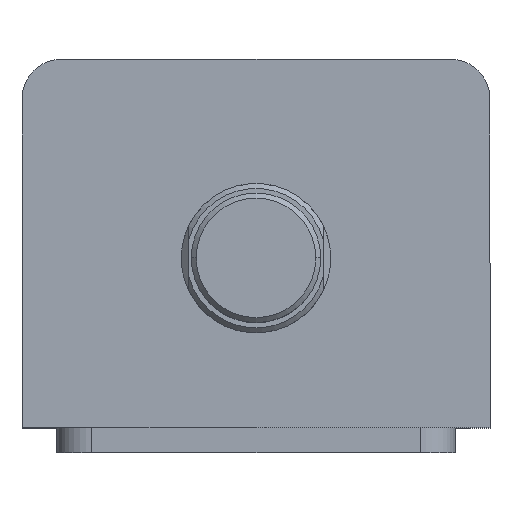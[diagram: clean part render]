
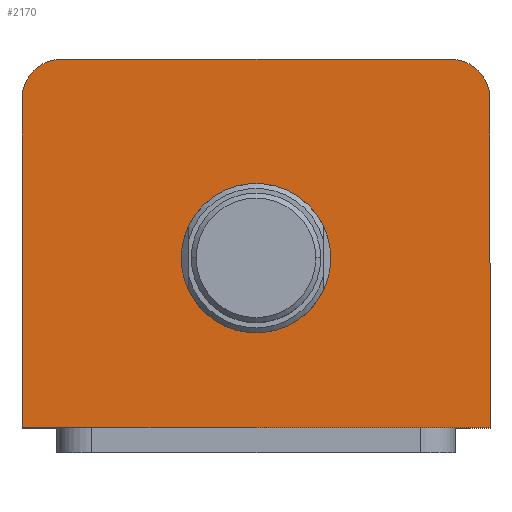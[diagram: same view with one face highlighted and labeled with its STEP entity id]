
A CAD part, top view. The second image highlights one B-rep face of the part: STEP entity #2170.
In plain terms, the highlighted planar face has unit normal (0, 0, 1).
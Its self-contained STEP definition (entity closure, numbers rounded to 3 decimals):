
#1 = CARTESIAN_POINT ( 'NONE',  ( 0., -3., 90. ) ) ;
#32 = LINE ( 'NONE', #687, #35 ) ;
#35 = VECTOR ( 'NONE', #688, 1000. ) ;
#140 = FACE_BOUND ( 'NONE', #2980, .T. ) ;
#143 = FACE_OUTER_BOUND ( 'NONE', #3020, .T. ) ;
#355 = EDGE_CURVE ( 'NONE', #2680, #2677, #1537, .T. ) ;
#368 = EDGE_CURVE ( 'NONE', #2704, #2680, #1515, .T. ) ;
#378 = EDGE_CURVE ( 'NONE', #2677, #2668, #1502, .T. ) ;
#384 = EDGE_CURVE ( 'NONE', #2666, #1987, #1494, .T. ) ;
#392 = EDGE_CURVE ( 'NONE', #2668, #2666, #1476, .T. ) ;
#401 = EDGE_CURVE ( 'NONE', #2589, #2601, #1454, .T. ) ;
#597 = CIRCLE ( 'NONE', #1702, 15. ) ;
#687 = CARTESIAN_POINT ( 'NONE',  ( 47., 37., 90. ) ) ;
#688 = DIRECTION ( 'NONE',  ( 0., 1., 0. ) ) ;
#709 = CARTESIAN_POINT ( 'NONE',  ( 47., -37., 90. ) ) ;
#863 = CARTESIAN_POINT ( 'NONE',  ( 0., 0., 90. ) ) ;
#864 = PLANE ( 'NONE',  #1763 ) ;
#869 = DIRECTION ( 'NONE',  ( 0., 0., 1. ) ) ;
#870 = DIRECTION ( 'NONE',  ( 1., 0., 0. ) ) ;
#916 = CARTESIAN_POINT ( 'NONE',  ( 15., -3., 90. ) ) ;
#928 = CARTESIAN_POINT ( 'NONE',  ( -15., -3., 90. ) ) ;
#985 = CARTESIAN_POINT ( 'NONE',  ( -47., -37., 90. ) ) ;
#987 = CARTESIAN_POINT ( 'NONE',  ( -47., 29., 90. ) ) ;
#988 = CARTESIAN_POINT ( 'NONE',  ( -39., 37., 90. ) ) ;
#998 = CARTESIAN_POINT ( 'NONE',  ( 39., 37., 90. ) ) ;
#1021 = CARTESIAN_POINT ( 'NONE',  ( 47., 29., 90. ) ) ;
#1454 = CIRCLE ( 'NONE', #1935, 15. ) ;
#1471 = VECTOR ( 'NONE', #2823, 1000. ) ;
#1476 = LINE ( 'NONE', #2825, #1471 ) ;
#1491 = VECTOR ( 'NONE', #2845, 1000. ) ;
#1494 = LINE ( 'NONE', #2847, #1491 ) ;
#1502 = CIRCLE ( 'NONE', #1930, 8. ) ;
#1515 = CIRCLE ( 'NONE', #1922, 8. ) ;
#1532 = VECTOR ( 'NONE', #2894, 1000. ) ;
#1537 = LINE ( 'NONE', #2896, #1532 ) ;
#1563 = ORIENTED_EDGE ( 'NONE', *, *, #401, .F. ) ;
#1702 = AXIS2_PLACEMENT_3D ( 'NONE', #1, #2884, #2720 ) ;
#1763 = AXIS2_PLACEMENT_3D ( 'NONE', #863, #869, #870 ) ;
#1883 = EDGE_CURVE ( 'NONE', #2601, #2589, #597, .T. ) ;
#1922 = AXIS2_PLACEMENT_3D ( 'NONE', #2814, #2813, #2812 ) ;
#1930 = AXIS2_PLACEMENT_3D ( 'NONE', #2736, #2729, #2725 ) ;
#1935 = AXIS2_PLACEMENT_3D ( 'NONE', #2797, #2795, #2794 ) ;
#1970 = EDGE_CURVE ( 'NONE', #1987, #2704, #32, .T. ) ;
#1987 = VERTEX_POINT ( 'NONE', #709 ) ;
#2170 = ADVANCED_FACE ( 'NONE', ( #140, #143 ), #864, .T. ) ;
#2326 = ORIENTED_EDGE ( 'NONE', *, *, #1883, .F. ) ;
#2327 = ORIENTED_EDGE ( 'NONE', *, *, #355, .T. ) ;
#2328 = ORIENTED_EDGE ( 'NONE', *, *, #378, .T. ) ;
#2329 = ORIENTED_EDGE ( 'NONE', *, *, #392, .T. ) ;
#2330 = ORIENTED_EDGE ( 'NONE', *, *, #384, .T. ) ;
#2331 = ORIENTED_EDGE ( 'NONE', *, *, #1970, .T. ) ;
#2332 = ORIENTED_EDGE ( 'NONE', *, *, #368, .T. ) ;
#2589 = VERTEX_POINT ( 'NONE', #916 ) ;
#2601 = VERTEX_POINT ( 'NONE', #928 ) ;
#2666 = VERTEX_POINT ( 'NONE', #985 ) ;
#2668 = VERTEX_POINT ( 'NONE', #987 ) ;
#2677 = VERTEX_POINT ( 'NONE', #988 ) ;
#2680 = VERTEX_POINT ( 'NONE', #998 ) ;
#2704 = VERTEX_POINT ( 'NONE', #1021 ) ;
#2720 = DIRECTION ( 'NONE',  ( 1., 0., 0. ) ) ;
#2725 = DIRECTION ( 'NONE',  ( 1., 0., 0. ) ) ;
#2729 = DIRECTION ( 'NONE',  ( 0., 0., 1. ) ) ;
#2736 = CARTESIAN_POINT ( 'NONE',  ( -39., 29., 90. ) ) ;
#2794 = DIRECTION ( 'NONE',  ( 1., 0., 0. ) ) ;
#2795 = DIRECTION ( 'NONE',  ( 0., 0., 1. ) ) ;
#2797 = CARTESIAN_POINT ( 'NONE',  ( 0., -3., 90. ) ) ;
#2812 = DIRECTION ( 'NONE',  ( 1., 0., 0. ) ) ;
#2813 = DIRECTION ( 'NONE',  ( 0., 0., 1. ) ) ;
#2814 = CARTESIAN_POINT ( 'NONE',  ( 39., 29., 90. ) ) ;
#2823 = DIRECTION ( 'NONE',  ( 0., -1., 0. ) ) ;
#2825 = CARTESIAN_POINT ( 'NONE',  ( -47., 37., 90. ) ) ;
#2845 = DIRECTION ( 'NONE',  ( 1., 0., 0. ) ) ;
#2847 = CARTESIAN_POINT ( 'NONE',  ( -47., -37., 90. ) ) ;
#2884 = DIRECTION ( 'NONE',  ( 0., 0., 1. ) ) ;
#2894 = DIRECTION ( 'NONE',  ( -1., 0., 0. ) ) ;
#2896 = CARTESIAN_POINT ( 'NONE',  ( -47., 37., 90. ) ) ;
#2980 = EDGE_LOOP ( 'NONE', ( #1563, #2326 ) ) ;
#3020 = EDGE_LOOP ( 'NONE', ( #2327, #2328, #2329, #2330, #2331, #2332 ) ) ;
